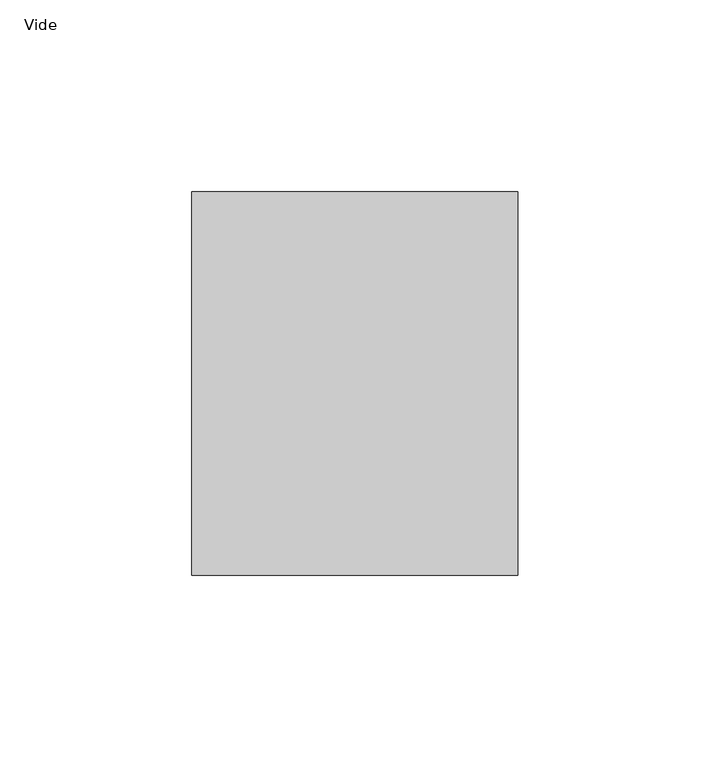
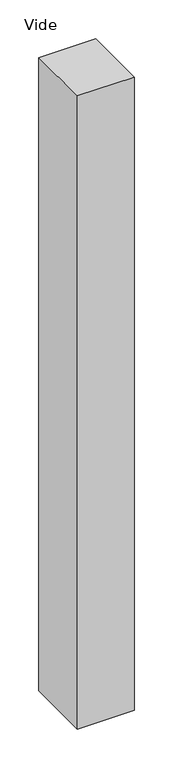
"""IFC4 building model written with IfcOpenShell, lengths in millimetres: plate geometry, Panneau système vide : Vide."""

from ifc_helpers import new_model, si_unit, origin, origin_with_axes, place, context, project, spatial, polyline, outline, extrude, source, transform, mapped, element, save


def vide_beab6a31(model_context):
    return source(origin(), model_context, "Body", "SweptSolid", [
        extrude(outline(polyline([(42.5000002, 50.0), (-42.5000002, 50.0), (-42.5000002, 150.0), (42.5000002, 150.0), (42.5000002, 50.0)])), origin_with_axes(), (0.0, 0.0, 1.0), 1000.0),
    ])


if __name__ == "__main__":
    model = new_model("IFC4")
    model_context = context("Model", 3, world=origin())
    ifc_project = project(units=[si_unit("LENGTHUNIT", "METRE", prefix="MILLI")], contexts=[model_context])
    site = spatial("IfcSite", under=ifc_project)
    building = spatial("IfcBuilding", under=site)
    placement = place(None, origin())
    vide_shape = vide_beab6a31(model_context)
    element("IfcPlate", 1, ObjectType="Panneau système vide : Vide", at=placement, inside=building, context=model_context, shape_type="MappedRepresentation", body=[
        mapped(vide_shape, transform((0.0, 0.0, 0.0), x_axis=(1.0, 0.0, 0.0), y_axis=(0.0, 1.0, 0.0), z_axis=(0.0, 0.0, 1.0))),
    ])
    save(model, "model.ifc")
